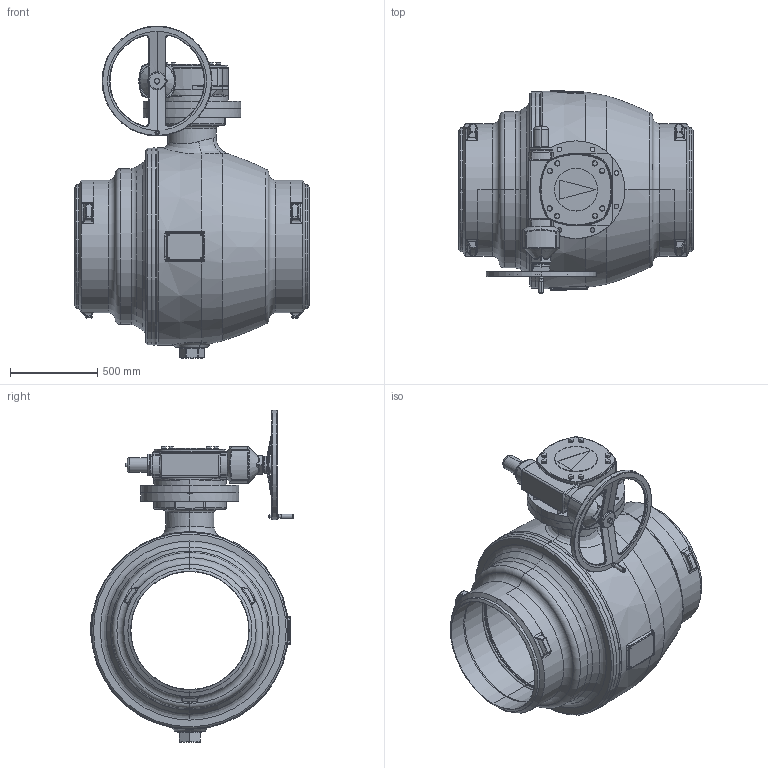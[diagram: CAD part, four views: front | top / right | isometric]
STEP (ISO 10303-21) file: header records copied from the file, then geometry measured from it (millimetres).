
FILE_DESCRIPTION((''),'2;1');
FILE_NAME('ASM0020_ASM','2016-04-29T',('schwaba'),('RAND'),'PRO/ENGINEER BY PARAMETRIC TECHNOLOGY CORPORATION, 2013410','PRO/ENGINEER BY PARAMETRIC TECHNOLOGY CORPORATION, 2013410','');
FILE_SCHEMA(('CONFIG_CONTROL_DESIGN'));
Products named in the file (7): KHISL700VSL700P040MKK_SW0001; PRT0026; PRT0027; PRT0028; ASM0021_ASM; GS200_700_ASM; ASM0020_ASM
Assembly tree (6 placements, depth 4):
  ASM0020_ASM
    KHISL700VSL700P040MKK_SW0001
    GS200_700_ASM
      ASM0021_ASM
        PRT0026
        PRT0027
        PRT0028
Bounding box: 1346 x 1163.31 x 1903 mm (x, y, z)
Volume: 379488555.1 mm3; surface area: 19746587.8 mm2
Topology: 4 solids, 12 shells, 2738 faces, 6787 edges, 4188 vertices
Faces by surface type: plane 1158, cylinder 621, torus 344, bspline 340, cone 231, sphere 44
Entity records: 151052 total; most frequent: CARTESIAN_POINT 89554, ORIENTED_EDGE 13466, DIRECTION 11985, EDGE_CURVE 6733, AXIS2_PLACEMENT_3D 4932, VERTEX_POINT 4188, EDGE_LOOP 3013, FACE_OUTER_BOUND 2738
